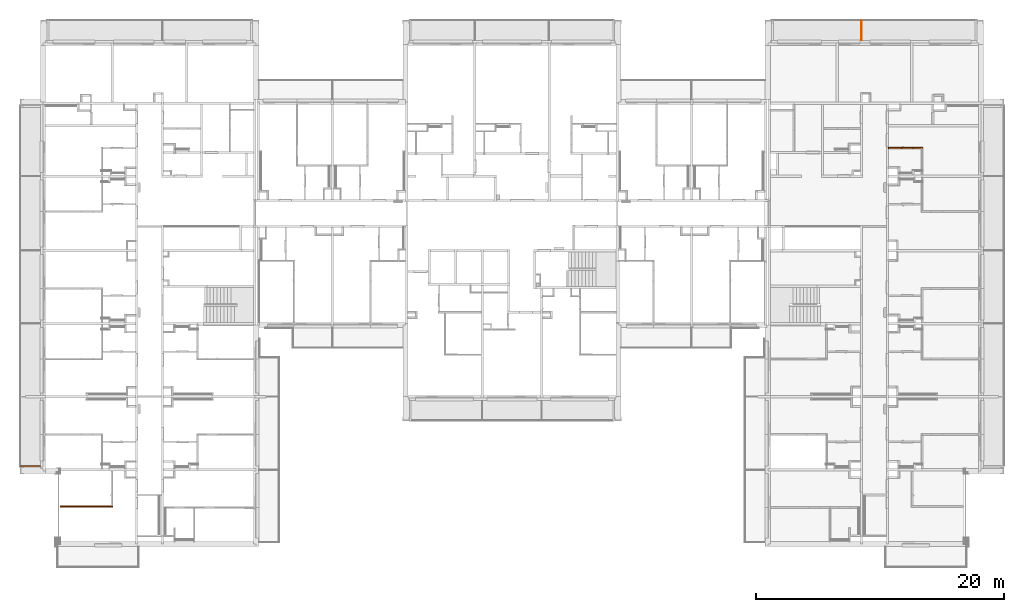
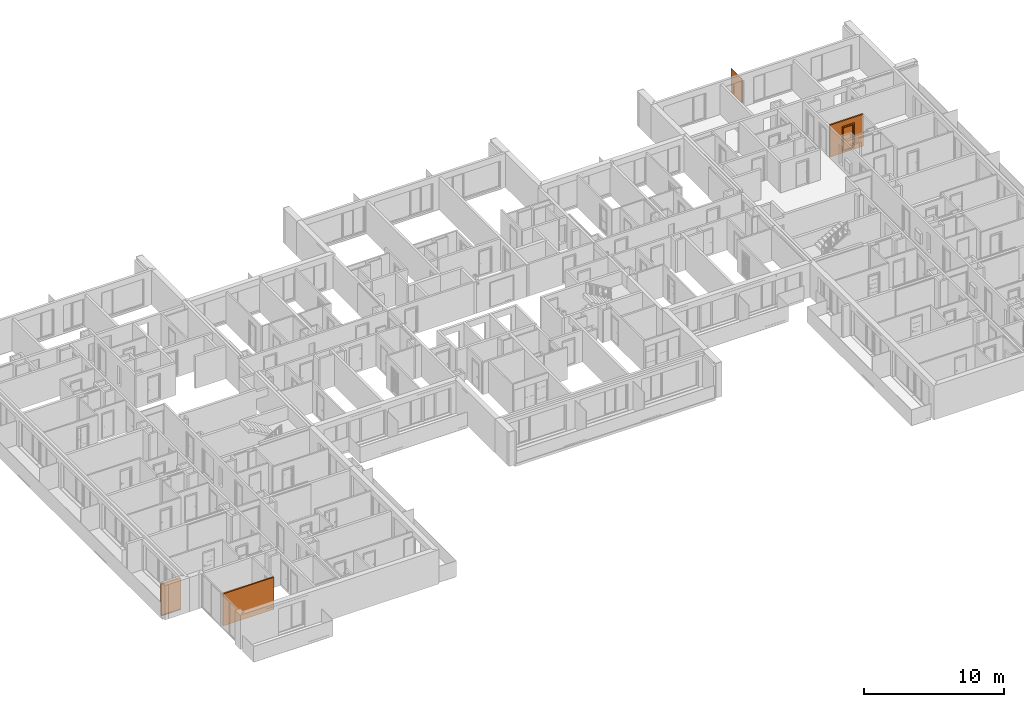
# One storey, part 34 of 64: 5 proxies, 1 opening.
"""IFC2X3 building model written with IfcOpenShell, lengths in millimetres."""

import ifcopenshell
import ifcopenshell.guid

model = None  # the IFC model being written
_history = None  # IfcOwnerHistory: only IFC2X3 demands one
_inside = {}  # id of a spatial element -> (the spatial element, [elements in it])
_under = {}  # id of a project, library or spatial element -> (it, [spatial elements below it])
_declared = {}  # id of a project -> (the project, [libraries it declares])
_typed = {}  # id of a type object -> (the type object, [elements of that type])
_made_of = {}  # id of a material, layer set ... -> (it, [elements and type objects made of it])


def new_model(schema):
    """Start an empty IFC model of exactly this schema.

    Asked for "IFC4X3", IfcOpenShell would pick the latest addendum, in which some entities
    have other attributes; the version numbers below select the first issue.
    IFC2X3 requires an IfcOwnerHistory on every rooted entity: one is made here for all.
    """
    global model, _history
    if schema == "IFC4X3":
        model = ifcopenshell.file(schema_version=(4, 3, 0, 0))
    else:
        model = ifcopenshell.file(schema=schema)
    _inside.clear()
    _under.clear()
    _declared.clear()
    _typed.clear()
    _made_of.clear()
    _history = None
    if model.schema == "IFC2X3":
        org = make("IfcOrganization", Name="unknown")
        user = make(
            "IfcPersonAndOrganization",
            ThePerson=make("IfcPerson", FamilyName="unknown"),
            TheOrganization=org,
        )
        app = make(
            "IfcApplication",
            ApplicationDeveloper=org,
            Version="unknown",
            ApplicationFullName="unknown",
            ApplicationIdentifier="unknown",
        )
        _history = make(
            "IfcOwnerHistory",
            OwningUser=user,
            OwningApplication=app,
            ChangeAction="ADDED",
            CreationDate=0,
        )
    return model


def make(cls, **values):
    """One entity of the class cls with the attributes given. An attribute that is None is left unset."""
    return model.create_entity(
        cls, **{name: value for name, value in values.items() if value is not None}
    )


def entity(cls, *values):
    """Any entity or typed value of the class cls, its attributes in the order of the schema. None: left unset."""
    e = model.create_entity(cls)
    for i, value in enumerate(values):
        if value is not None:
            e[i] = value
    return e


def rooted(cls, **values):
    """An entity with a GlobalId (a new one), such as an element, a storey or a relation."""
    return make(cls, GlobalId=ifcopenshell.guid.new(), OwnerHistory=_history, **values)


def si_unit(unit_type, name, prefix=None):
    """IfcSIUnit, for example si_unit("LENGTHUNIT", "METRE", prefix="MILLI")."""
    return make("IfcSIUnit", UnitType=unit_type, Prefix=prefix, Name=name)


def converted_unit(unit_type, name, factor, base, dimensions=None, offset=None):
    """IfcConversionBasedUnit, such as the inch: factor (a typed value) times the base unit."""
    return make(
        "IfcConversionBasedUnit"
        if offset is None
        else "IfcConversionBasedUnitWithOffset",
        ConversionOffset=offset,
        Dimensions=None
        if dimensions is None
        else entity("IfcDimensionalExponents", *dimensions),
        UnitType=unit_type,
        Name=name,
        ConversionFactor=make(
            "IfcMeasureWithUnit", ValueComponent=factor, UnitComponent=base
        ),
    )


def derived_unit(unit_type, elements):
    """IfcDerivedUnit: a product of units, each with its exponent."""
    return make(
        "IfcDerivedUnit",
        Elements=[
            make("IfcDerivedUnitElement", Unit=unit, Exponent=power)
            for unit, power in elements
        ],
        UnitType=unit_type,
    )


def money_unit(currency):
    """IfcMonetaryUnit."""
    return make("IfcMonetaryUnit", Currency=currency)


def assignment(units):
    """IfcUnitAssignment: the units of a project."""
    return None if units is None else make("IfcUnitAssignment", Units=units)


def point(xyz):
    """IfcCartesianPoint."""
    return None if xyz is None else make("IfcCartesianPoint", Coordinates=xyz)


def direction(xyz):
    """IfcDirection."""
    return None if xyz is None else make("IfcDirection", DirectionRatios=xyz)


def frame(location, z_axis=None, x_axis=None):
    """IfcAxis2Placement3D, a coordinate frame: its origin and axes. An axis left out is left unset."""
    return make(
        "IfcAxis2Placement3D",
        Location=point(location),
        Axis=direction(z_axis),
        RefDirection=direction(x_axis),
    )


def frame_2d(location, x_axis=None):
    """IfcAxis2Placement2D, a coordinate frame in the plane: its origin and x axis."""
    return make(
        "IfcAxis2Placement2D", Location=point(location), RefDirection=direction(x_axis)
    )


def origin_with_axes():
    """The frame at (0, 0, 0) with the z axis (0, 0, 1) and the x axis (1, 0, 0) written out."""
    return frame((0.0, 0.0, 0.0), z_axis=(0.0, 0.0, 1.0), x_axis=(1.0, 0.0, 0.0))


def origin_2d_with_axis():
    """The frame at (0, 0) in the plane with the x axis (1, 0) written out."""
    return frame_2d((0.0, 0.0), x_axis=(1.0, 0.0))


def place(relative_to, where):
    """IfcLocalPlacement: puts the frame where relative to a parent placement (None: the world)."""
    return make(
        "IfcLocalPlacement", PlacementRelTo=relative_to, RelativePlacement=where
    )


def context(
    kind, dimensions, precision=None, world=None, true_north=None, identifier=None
):
    """IfcGeometricRepresentationContext, for example the 3D "Model" context."""
    return make(
        "IfcGeometricRepresentationContext",
        ContextIdentifier=identifier,
        ContextType=kind,
        CoordinateSpaceDimension=dimensions,
        Precision=precision,
        WorldCoordinateSystem=world,
        TrueNorth=true_north,
    )


def subcontext(parent, identifier, kind, view, scale=None):
    """IfcGeometricRepresentationSubContext, for example "Body" below "Model"."""
    return make(
        "IfcGeometricRepresentationSubContext",
        ContextIdentifier=identifier,
        ContextType=kind,
        ParentContext=parent,
        TargetScale=scale,
        TargetView=view,
    )


def project(units=None, contexts=None):
    """IfcProject with its units and contexts."""
    return rooted(
        "IfcProject",
        Name="project",
        RepresentationContexts=contexts,
        UnitsInContext=assignment(units),
    )


def spatial(cls, under=None, at=None, **own):
    """A site, building, storey or space (cls), placed at a placement, below another one or the project."""
    s = rooted(cls, ObjectPlacement=at, **own)
    if under is not None:
        _under.setdefault(under.id(), (under, []))[1].append(s)
    return s


def polyline(points):
    """IfcPolyline through the points."""
    return make("IfcPolyline", Points=[point(p) for p in points])


def profile(cls, at=None, kind="AREA", **sizes):
    """A parametric profile (cls). Its sizes go by their IFC names, for example OverallWidth=200.0."""
    return make(cls, ProfileType=kind, Position=at, **sizes)


def rectangle(**sizes):
    """IfcRectangleProfileDef."""
    return profile("IfcRectangleProfileDef", **sizes)


def outline(outer, holes=None, kind="AREA"):
    """IfcArbitraryClosedProfileDef: a profile drawn as a closed curve; with holes, ...WithVoids."""
    if holes is None:
        return make("IfcArbitraryClosedProfileDef", ProfileType=kind, OuterCurve=outer)
    return make(
        "IfcArbitraryProfileDefWithVoids",
        ProfileType=kind,
        OuterCurve=outer,
        InnerCurves=holes,
    )


def extrude(swept, where, along, depth):
    """IfcExtrudedAreaSolid: the profile swept, set in the frame where, extruded along a direction by depth."""
    return make(
        "IfcExtrudedAreaSolid",
        SweptArea=swept,
        Position=where,
        ExtrudedDirection=direction(along),
        Depth=depth,
    )


def faces_of(points, faces, orient=None, outer=None):
    """IfcFace entities. A face is a list of loops; a loop is a list of indices into points, from 0.

    orient and outer hold one flag for each loop. By default every Orientation is true, the
    first loop of a face is its IfcFaceOuterBound and the others are IfcFaceBound.
    """
    made = []
    for i, loops in enumerate(faces):
        bounds = []
        for j, loop in enumerate(loops):
            is_outer = j == 0 if outer is None else outer[i][j]
            bounds.append(
                make(
                    "IfcFaceOuterBound" if is_outer else "IfcFaceBound",
                    Bound=make("IfcPolyLoop", Polygon=[points[k] for k in loop]),
                    Orientation=True if orient is None else orient[i][j],
                )
            )
        made.append(make("IfcFace", Bounds=bounds))
    return made


def open_shell(faces, orient=None, outer=None):
    """The faces of one IfcOpenShell. surface_model builds it on its shared points."""
    return ("IfcOpenShell", faces, orient, outer)


def faceted_brep(points, faces, orient=None, outer=None, voids=None):
    """IfcFacetedBrep: a solid bounded by flat faces; with voids (closed shells), ...WithVoids."""
    shared = [point(p) for p in points]
    hull = make("IfcClosedShell", CfsFaces=faces_of(shared, faces, orient, outer))
    if voids is None:
        return make("IfcFacetedBrep", Outer=hull)
    return make(
        "IfcFacetedBrepWithVoids",
        Outer=hull,
        Voids=[
            make(cls, CfsFaces=faces_of(shared, fs, o, b)) for cls, fs, o, b in voids
        ],
    )


def surface_model(cls, points, shells):
    """IfcFaceBasedSurfaceModel or IfcShellBasedSurfaceModel (cls): surfaces that need not close."""
    shared = [point(p) for p in points]
    made = [make(c, CfsFaces=faces_of(shared, fs, o, b)) for c, fs, o, b in shells]
    if cls == "IfcFaceBasedSurfaceModel":
        return make(cls, FbsmFaces=made)
    return make(cls, SbsmBoundary=made)


def shape(context_of_items, identifier, shape_type, items):
    """IfcShapeRepresentation: the items that make up one representation, for example the "Body"."""
    return make(
        "IfcShapeRepresentation",
        ContextOfItems=context_of_items,
        RepresentationIdentifier=identifier,
        RepresentationType=shape_type,
        Items=items,
    )


def source(mapping_origin, context_of_items, identifier, shape_type, items):
    """IfcRepresentationMap: a shape defined once, which mapped items show again and again."""
    return make(
        "IfcRepresentationMap",
        MappingOrigin=mapping_origin,
        MappedRepresentation=shape(context_of_items, identifier, shape_type, items),
    )


def transform(
    local_origin,
    x_axis=None,
    y_axis=None,
    z_axis=None,
    scale=None,
    scale2=None,
    scale3=None,
    uniform=True,
):
    """IfcCartesianTransformationOperator3D, or its non-uniform kind. x_axis, y_axis, z_axis: its Axis1, 2, 3."""
    if uniform:
        return make(
            "IfcCartesianTransformationOperator3D",
            Axis1=direction(x_axis),
            Axis2=direction(y_axis),
            LocalOrigin=point(local_origin),
            Scale=scale,
            Axis3=direction(z_axis),
        )
    return make(
        "IfcCartesianTransformationOperator3DnonUniform",
        Axis1=direction(x_axis),
        Axis2=direction(y_axis),
        LocalOrigin=point(local_origin),
        Scale=scale,
        Axis3=direction(z_axis),
        Scale2=scale2,
        Scale3=scale3,
    )


def mapped(mapping_source, mapping_target):
    """IfcMappedItem: shows the shape of a source again, moved by a transform."""
    return make(
        "IfcMappedItem", MappingSource=mapping_source, MappingTarget=mapping_target
    )


def material(Name=None, Category=None):
    """IfcMaterial."""
    return make("IfcMaterial", Name=Name, Category=Category)


def made_of(thing, what):
    """Note that an element or type object is made of a material, layer set ...; save() writes the relation."""
    if what is not None:
        _made_of.setdefault(what.id(), (what, []))[1].append(thing)
    return thing


def type_object(cls, material=None, **own):
    """A type object (cls), such as IfcWallType, which elements share."""
    return made_of(rooted(cls, **own), material)


def element(
    cls,
    number,
    at=None,
    inside=None,
    cuts=None,
    type_object=None,
    material=None,
    context=None,
    identifier="Body",
    shape_type=None,
    held_by="IfcProductDefinitionShape",
    body=None,
    shapes=None,
    **own,
):
    """One element of the class cls, such as IfcWall. Its Tag is "e" and its number.

    at: its placement. inside: the storey or other place that contains it. cuts: it is an
    opening in that element (IfcRelVoidsElement). A single representation is given by context,
    identifier, shape_type and body (its items); several are given by shapes. held_by: the class
    of the entity that holds the representations. save() writes the other relations.
    """
    e = rooted(cls, Tag="e%d" % number, ObjectPlacement=at, **own)
    if body is not None:
        shapes = [shape(context, identifier, shape_type, body)]
    if shapes is not None:
        e.Representation = make(held_by, Representations=shapes)
    if inside is not None:
        _inside.setdefault(inside.id(), (inside, []))[1].append(e)
    if cuts is not None:
        rooted(
            "IfcRelVoidsElement", RelatingBuildingElement=cuts, RelatedOpeningElement=e
        )
    if type_object is not None:
        _typed.setdefault(type_object.id(), (type_object, []))[1].append(e)
    return made_of(e, material)


def fill(opening, filler):
    """IfcRelFillsElement: the door or window that sits in an opening."""
    return rooted(
        "IfcRelFillsElement",
        RelatingOpeningElement=opening,
        RelatedBuildingElement=filler,
    )


def aggregate(whole, parts):
    """IfcRelAggregates: a whole, such as a stair, and the parts it consists of."""
    return rooted("IfcRelAggregates", RelatingObject=whole, RelatedObjects=parts)


def save(model, path):
    """Write the relations noted so far, then the file.

    IfcRelAggregates (storeys below a building ...), IfcRelContainedInSpatialStructure (elements
    in a storey), IfcRelDefinesByType, IfcRelAssociatesMaterial and IfcRelDeclares: one each for
    every whole, place, type object, material and project.
    """
    for whole, parts in _under.values():
        aggregate(whole, parts)
    for where, things in _inside.values():
        rooted(
            "IfcRelContainedInSpatialStructure",
            RelatedElements=things,
            RelatingStructure=where,
        )
    for kind, things in _typed.values():
        rooted("IfcRelDefinesByType", RelatedObjects=things, RelatingType=kind)
    for what, things in _made_of.values():
        rooted("IfcRelAssociatesMaterial", RelatedObjects=things, RelatingMaterial=what)
    for by, libraries in _declared.values():
        rooted("IfcRelDeclares", RelatingContext=by, RelatedDefinitions=libraries)
    model.write(path)


model = new_model("IFC2X3")

# Units and contexts
model_context = context("Model", 3, precision=0.01, world=origin_with_axes(), true_north=direction((0.34421633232, 0.938890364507)))
body_context = subcontext(model_context, "Body", "Model", "MODEL_VIEW")
ifc_project = project(units=[si_unit("LENGTHUNIT", "METRE", prefix="MILLI"), si_unit("AREAUNIT", "SQUARE_METRE"), si_unit("VOLUMEUNIT", "CUBIC_METRE"), converted_unit("PLANEANGLEUNIT", "DEGREE", entity("IfcPlaneAngleMeasure", 0.0174532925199), si_unit("PLANEANGLEUNIT", "RADIAN"), dimensions=[0, 0, 0, 0, 0, 0, 0]), si_unit("SOLIDANGLEUNIT", "STERADIAN"), money_unit("USD"), converted_unit("TIMEUNIT", "Year", entity("IfcTimeMeasure", 31556926.0), si_unit("TIMEUNIT", "SECOND"), dimensions=[0, 0, 1, 0, 0, 0, 0]), si_unit("MASSUNIT", "GRAM", prefix="KILO"), si_unit("THERMODYNAMICTEMPERATUREUNIT", "DEGREE_CELSIUS"), si_unit("LUMINOUSINTENSITYUNIT", "LUMEN"), si_unit("ENERGYUNIT", "JOULE", prefix="MEGA"), derived_unit("THERMALCONDUCTANCEUNIT", [(si_unit("POWERUNIT", "WATT"), 1), (si_unit("LENGTHUNIT", "METRE"), -1), (si_unit("THERMODYNAMICTEMPERATUREUNIT", "KELVIN"), -1)]), derived_unit("SPECIFICHEATCAPACITYUNIT", [(si_unit("ENERGYUNIT", "JOULE"), 1), (si_unit("MASSUNIT", "GRAM", prefix="KILO"), -1), (si_unit("THERMODYNAMICTEMPERATUREUNIT", "KELVIN"), -1)]), derived_unit("MASSDENSITYUNIT", [(si_unit("MASSUNIT", "GRAM", prefix="KILO"), 1), (si_unit("VOLUMEUNIT", "CUBIC_METRE"), -1)])], contexts=[model_context])

# Site, building, storey
site_placement = place(None, origin_with_axes())
site = spatial("IfcSite", under=ifc_project, at=site_placement, Name="USTRONIE MORSKIE", CompositionType="ELEMENT")
building_placement = place(site_placement, origin_with_axes())
building = spatial("IfcBuilding", under=site, at=building_placement, Name="Budynek", CompositionType="ELEMENT")
storey_placement = place(building_placement, frame((0.0, 0.0, 7000.0), z_axis=(0.0, 0.0, 1.0), x_axis=(1.0, 0.0, 0.0)))
storey = spatial("IfcBuildingStorey", under=building, at=storey_placement, Name="PIĘTRO 2", CompositionType="ELEMENT", Elevation=7000.0)

# Proxies, opening
ifc_material_1 = material(Name="Bloczki silikatowe")
building_element_proxy_type_1 = type_object("IfcBuildingElementProxyType", Name="Bloczki silikatowe 120", PredefinedType="NOTDEFINED")
proxy_1_placement = place(storey_placement, frame((420917.920919, 741061.20794, -180.0), z_axis=(0.0, 0.0, 1.0), x_axis=(-1.0, 0.0, 0.0)))
proxy_1 = element("IfcBuildingElementProxy", 1, at=proxy_1_placement, inside=storey, type_object=building_element_proxy_type_1, material=ifc_material_1, Name="SW-04", context=body_context, shape_type="Brep", body=[
    faceted_brep([(-60.0, 59.9999999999, 2820.0), (-60.0, 59.9999999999, 20.0), (-60.0, -59.9999999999, 20.0), (-60.0, -59.9999999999, 2820.0), (2720.0, 59.9999999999, 2820.0), (2720.0, 59.9999999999, 20.0), (2720.0, -59.9999999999, 20.0), (2720.0, -59.9999999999, 2820.0)], [[[0, 1, 2, 3]], [[4, 5, 1, 0]], [[5, 6, 2, 1]], [[3, 2, 6, 7]], [[0, 3, 7, 4]], [[7, 6, 5, 4]]]),
])
opening_placement = place(proxy_1_placement, frame((1200.0, 0.0, 180.0), z_axis=(0.0, 0.0, 1.0), x_axis=(1.0, 0.0, 0.0)))
opening = element("IfcOpeningElement", 2, at=opening_placement, cuts=proxy_1, Name="Dw.4", context=body_context, shape_type="SweptSolid", body=[
    extrude(rectangle(XDim=920.0, YDim=2070.0, at=origin_2d_with_axis()), frame((0.0, 120.0, 1035.0), z_axis=(0.0, -1.0, 0.0), x_axis=(-1.0, 0.0, 0.0)), (0.0, 0.0, 1.0), 360.0),
    extrude(rectangle(XDim=994.0, YDim=2177.0, at=origin_2d_with_axis()), frame((0.0, 60.0000000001, 1088.5), z_axis=(0.0, -1.0, 0.0), x_axis=(-1.0, 0.0, 0.0)), (0.0, 0.0, -1.0), 120.0),
    extrude(rectangle(XDim=994.0, YDim=2177.0, at=origin_2d_with_axis()), frame((0.0, -59.9999999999, 1088.5), z_axis=(0.0, 1.0, 0.0), x_axis=(-1.0, 0.0, 0.0)), (0.0, 0.0, -1.0), 120.0),
])
building_element_proxy_type_2 = type_object("IfcBuildingElementProxyType", Name="Drzwi 23", PredefinedType="NOTDEFINED")
shared_shape = source(origin_with_axes(), body_context, "Body", "SurfaceModel", [
    faceted_brep([(-460.0, -115.0, 0.0), (-435.0, -115.0, 0.0), (-435.0, -120.0, 0.0), (-460.0, -120.0, 0.0), (-460.0, -115.0, 2070.0), (-435.0, -115.0, 2045.0), (-435.0, -120.0, 2045.0), (-460.0, -120.0, 2070.0)], [[[0, 1, 2, 3]], [[0, 4, 5, 1]], [[1, 5, 6, 2]], [[3, 2, 6, 7]], [[4, 0, 3, 7]], [[5, 4, 7, 6]]]),
    faceted_brep([(460.0, -115.0, 2070.0), (435.0, -115.0, 2045.0), (435.0, -120.0, 2045.0), (460.0, -120.0, 2070.0), (460.0, -115.0, 0.0), (435.0, -115.0, 0.0), (435.0, -120.0, 0.0), (460.0, -120.0, 0.0)], [[[0, 1, 2, 3]], [[0, 4, 5, 1]], [[1, 5, 6, 2]], [[3, 2, 6, 7]], [[4, 0, 3, 7]], [[5, 4, 7, 6]]]),
    faceted_brep([(-435.0, -115.0, 2045.0), (435.0, -115.0, 2045.0), (435.0, -120.0, 2045.0), (-435.0, -120.0, 2045.0), (-460.0, -115.0, 2070.0), (460.0, -115.0, 2070.0), (460.0, -120.0, 2070.0), (-460.0, -120.0, 2070.0)], [[[0, 1, 2, 3]], [[0, 4, 5, 1]], [[1, 5, 6, 2]], [[3, 2, 6, 7]], [[4, 0, 3, 7]], [[5, 4, 7, 6]]]),
    faceted_brep([(-497.0, -139.0, 0.0), (-497.0, -120.0, 0.0), (-447.0, -120.0, 0.0), (-447.0, -139.0, 0.0), (-497.0, -139.0, 2177.0), (-497.0, -120.0, 2177.0), (-447.0, -120.0, 2057.0), (-447.0, -139.0, 2057.0)], [[[0, 1, 2, 3]], [[4, 5, 1, 0]], [[1, 5, 6, 2]], [[3, 2, 6, 7]], [[0, 3, 7, 4]], [[7, 6, 5, 4]]]),
    faceted_brep([(497.0, -139.0, 2177.0), (497.0, -120.0, 2177.0), (447.0, -120.0, 2057.0), (447.0, -139.0, 2057.0), (497.0, -139.0, 0.0), (497.0, -120.0, 0.0), (447.0, -120.0, 0.0), (447.0, -139.0, 0.0)], [[[0, 1, 2, 3]], [[4, 5, 1, 0]], [[1, 5, 6, 2]], [[3, 2, 6, 7]], [[0, 3, 7, 4]], [[7, 6, 5, 4]]]),
    faceted_brep([(-497.0, -139.0, 2177.0), (-497.0, -120.0, 2177.0), (-447.0, -120.0, 2057.0), (-447.0, -139.0, 2057.0), (497.0, -139.0, 2177.0), (497.0, -120.0, 2177.0), (447.0, -120.0, 2057.0), (447.0, -139.0, 2057.0)], [[[0, 1, 2, 3]], [[4, 5, 1, 0]], [[1, 5, 6, 2]], [[3, 2, 6, 7]], [[0, 3, 7, 4]], [[7, 6, 5, 4]]]),
    faceted_brep([(-497.0, 19.0, 0.0), (-447.0, 19.0, 0.0), (-447.0, 0.0, 0.0), (-497.0, 0.0, 0.0), (-497.0, 19.0, 2177.0), (-447.0, 19.0, 2057.0), (-447.0, 0.0, 2057.0), (-497.0, 0.0, 2177.0)], [[[0, 1, 2, 3]], [[0, 4, 5, 1]], [[1, 5, 6, 2]], [[3, 2, 6, 7]], [[4, 0, 3, 7]], [[5, 4, 7, 6]]]),
    faceted_brep([(497.0, 19.0, 2177.0), (447.0, 19.0, 2057.0), (447.0, 0.0, 2057.0), (497.0, 0.0, 2177.0), (497.0, 19.0, 0.0), (447.0, 19.0, 0.0), (447.0, 0.0, 0.0), (497.0, 0.0, 0.0)], [[[0, 1, 2, 3]], [[0, 4, 5, 1]], [[1, 5, 6, 2]], [[3, 2, 6, 7]], [[4, 0, 3, 7]], [[5, 4, 7, 6]]]),
    faceted_brep([(-497.0, 19.0, 2177.0), (-447.0, 19.0, 2057.0), (-447.0, 0.0, 2057.0), (-497.0, 0.0, 2177.0), (497.0, 19.0, 2177.0), (447.0, 19.0, 2057.0), (447.0, 0.0, 2057.0), (497.0, 0.0, 2177.0)], [[[0, 1, 2, 3]], [[0, 4, 5, 1]], [[1, 5, 6, 2]], [[3, 2, 6, 7]], [[4, 0, 3, 7]], [[5, 4, 7, 6]]]),
    faceted_brep([(-400.0, -40.0, 0.0), (-400.0, -40.0, 2000.0), (-400.0, -115.0, 2000.0), (-400.0, -115.0, 0.0), (-412.0, -40.0, 2000.0), (-412.0, -40.0, 0.0), (-412.0, 0.0, 2000.0), (-460.0, 0.0, 2000.0), (-460.0, -115.0, 2000.0), (-460.0, -115.0, 0.0), (-460.0, 0.0, 0.0), (-412.0, 0.0, 0.0)], [[[0, 1, 2, 3]], [[4, 1, 0, 5]], [[4, 6, 7, 8, 2, 1]], [[3, 2, 8, 9]], [[5, 0, 3, 9, 10, 11]], [[6, 4, 5, 11]], [[6, 11, 10, 7]], [[10, 9, 8, 7]]]),
    faceted_brep([(412.0, -40.0, 2000.0), (400.0, -40.0, 2000.0), (400.0, -115.0, 2000.0), (460.0, -115.0, 2000.0), (460.0, 0.0, 2000.0), (412.0, 0.0, 2000.0), (412.0, -40.0, 0.0), (400.0, -40.0, 0.0), (400.0, -115.0, 0.0), (460.0, -115.0, 0.0), (460.0, 0.0, 0.0), (412.0, 0.0, 0.0)], [[[0, 1, 2, 3, 4, 5]], [[1, 0, 6, 7]], [[1, 7, 8, 2]], [[3, 2, 8, 9]], [[4, 3, 9, 10]], [[11, 5, 4, 10]], [[0, 5, 11, 6]], [[6, 11, 10, 9, 8, 7]]]),
    faceted_brep([(-412.0, 0.0, 2012.0), (-412.0, 0.0, 2000.0), (-460.0, 0.0, 2000.0), (-460.0, 0.0, 2070.0), (460.0, 0.0, 2070.0), (460.0, 0.0, 2000.0), (412.0, 0.0, 2000.0), (412.0, 0.0, 2012.0), (-412.0, -40.0, 2012.0), (-412.0, -40.0, 2000.0), (-400.0, -40.0, 2000.0), (-400.0, -115.0, 2000.0), (-460.0, -115.0, 2000.0), (-460.0, -115.0, 2070.0), (460.0, -115.0, 2070.0), (460.0, -115.0, 2000.0), (412.0, -40.0, 2000.0), (400.0, -115.0, 2000.0), (400.0, -40.0, 2000.0), (412.0, -40.0, 2012.0)], [[[0, 1, 2, 3, 4, 5, 6, 7]], [[1, 0, 8, 9]], [[9, 10, 11, 12, 2, 1]], [[2, 12, 13, 3]], [[3, 13, 14, 4]], [[4, 14, 15, 5]], [[16, 6, 5, 15, 17, 18]], [[7, 6, 16, 19]], [[0, 7, 19, 8]], [[16, 18, 10, 9, 8, 19]], [[10, 18, 17, 11]], [[17, 15, 14, 13, 12, 11]]]),
    faceted_brep([(-390.5, -40.0, 1060.0), (-390.5, -43.0, 1060.0), (-333.5, -43.0, 1060.0), (-333.5, -40.0, 1060.0), (-390.5, -40.0, 870.0), (-390.5, -43.0, 870.0), (-333.5, -43.0, 870.0), (-333.5, -40.0, 870.0)], [[[0, 1, 2, 3]], [[4, 5, 1, 0]], [[1, 5, 6, 2]], [[3, 2, 6, 7]], [[0, 3, 7, 4]], [[7, 6, 5, 4]]]),
    faceted_brep([(-362.0, -104.0, 990.0), (-362.0, -111.0, 990.0), (-367.0, -111.0, 991.339745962), (-367.0, -104.0, 991.339745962), (-337.0, -104.0, 990.0), (-337.0, -111.0, 990.0), (-337.0, -111.0, 1010.0), (-362.0, -111.0, 1010.0), (-367.0, -111.0, 1008.66025404), (-370.660254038, -111.0, 1005.0), (-372.0, -111.0, 1000.0), (-370.660254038, -111.0, 995.0), (-370.660254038, -104.0, 995.0), (-372.0, -104.0, 1000.0), (-370.660254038, -104.0, 1005.0), (-367.0, -104.0, 1008.66025404), (-362.0, -104.0, 1010.0), (-337.0, -104.0, 1010.0)], [[[0, 1, 2, 3]], [[4, 5, 1, 0]], [[1, 5, 6, 7, 8, 9, 10, 11, 2]], [[3, 2, 11, 12]], [[0, 3, 12, 13, 14, 15, 16, 17, 4]], [[17, 6, 5, 4]], [[16, 7, 6, 17]], [[15, 8, 7, 16]], [[14, 9, 8, 15]], [[13, 10, 9, 14]], [[12, 11, 10, 13]]]),
    surface_model("IfcShellBasedSurfaceModel", [(-337.0, -104.0, 1010.0), (-323.596090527, -111.0, 1009.60730092), (-323.901717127, -104.0, 1009.60730092), (-337.0, -111.0, 1010.0), (-296.890283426, -108.663544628, 1008.82190275), (-323.901717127, -104.0, 990.392699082), (-337.0, -104.0, 990.0), (-337.0, -111.0, 990.0), (-323.596090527, -111.0, 990.392699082), (-296.890283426, -108.663544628, 991.178097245), (-297.804837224, -101.716818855, 1008.82190275), (-297.804837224, -101.716818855, 991.178097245), (-270.489735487, -104.008415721, 991.963495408), (-270.489735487, -104.008415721, 1008.03650459), (-272.006256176, -97.1678329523, 1008.03650459), (-272.006256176, -97.1678329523, 991.963495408), (-244.59537082, -97.0700416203, 992.748893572), (-244.59537082, -97.0700416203, 1007.25110643), (-246.702316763, -90.3876628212, 1007.25110643), (-246.702316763, -90.3876628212, 992.748893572), (-236.538795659, -94.1376880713, 993.0), (-236.538795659, -94.1376880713, 1007.0), (-238.829442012, -87.5221707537, 1007.0), (-238.829442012, -87.5221707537, 993.0)], [open_shell([[[0, 1, 2]], [[0, 3, 1]], [[2, 1, 4]], [[0, 2, 5, 6]], [[3, 7, 8, 1]], [[1, 8, 9, 4]], [[2, 4, 10]], [[2, 10, 11, 5]], [[5, 7, 6]], [[5, 8, 7]], [[11, 9, 8]], [[4, 9, 12, 13]], [[10, 4, 13]], [[10, 14, 15, 11]], [[11, 8, 5]], [[15, 9, 11]], [[15, 12, 9]], [[13, 12, 16, 17]], [[10, 13, 14]], [[14, 18, 19, 15]], [[19, 12, 15]], [[19, 16, 12]], [[17, 16, 20, 21]], [[14, 13, 17]], [[14, 17, 18]], [[18, 22, 23, 19]], [[23, 16, 19]], [[23, 20, 16]], [[22, 21, 20, 23]], [[18, 17, 21]], [[18, 21, 22]]])]),
    faceted_brep([(-351.607695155, -53.0, 994.0), (-350.741669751, -43.0, 993.5), (-349.0, -43.0, 1000.0), (-350.0, -53.0, 1000.0), (-356.0, -53.0, 989.607695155), (-355.5, -43.0, 988.741669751), (-362.0, -43.0, 987.0), (-368.5, -43.0, 988.741669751), (-373.258330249, -43.0, 993.5), (-375.0, -43.0, 1000.0), (-373.258330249, -43.0, 1006.5), (-368.5, -43.0, 1011.25833025), (-362.0, -43.0, 1013.0), (-355.5, -43.0, 1011.25833025), (-350.741669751, -43.0, 1006.5), (-351.607695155, -53.0, 1006.0), (-356.0, -53.0, 1010.39230485), (-362.0, -53.0, 1012.0), (-368.0, -53.0, 1010.39230485), (-372.392304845, -53.0, 1006.0), (-374.0, -53.0, 1000.0), (-372.392304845, -53.0, 994.0), (-368.0, -53.0, 989.607695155), (-362.0, -53.0, 988.0)], [[[0, 1, 2, 3]], [[4, 5, 1, 0]], [[2, 1, 5, 6, 7, 8, 9, 10, 11, 12, 13, 14]], [[3, 2, 14, 15]], [[3, 15, 16, 17, 18, 19, 20, 21, 22, 23, 4, 0]], [[23, 6, 5, 4]], [[22, 7, 6, 23]], [[21, 8, 7, 22]], [[20, 9, 8, 21]], [[19, 10, 9, 20]], [[18, 11, 10, 19]], [[17, 12, 11, 18]], [[16, 13, 12, 17]], [[15, 14, 13, 16]]]),
    faceted_brep([(-344.679491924, -47.0, 895.0), (-342.947441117, -43.0, 894.0), (-340.0, -43.0, 905.0), (-342.0, -47.0, 905.0), (-352.0, -47.0, 887.679491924), (-351.0, -43.0, 885.947441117), (-362.0, -43.0, 883.0), (-373.0, -43.0, 885.947441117), (-381.052558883, -43.0, 894.0), (-384.0, -43.0, 905.0), (-381.052558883, -43.0, 916.0), (-373.0, -43.0, 924.052558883), (-362.0, -43.0, 927.0), (-351.0, -43.0, 924.052558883), (-342.947441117, -43.0, 916.0), (-344.679491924, -47.0, 915.0), (-352.0, -47.0, 922.320508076), (-362.0, -47.0, 925.0), (-372.0, -47.0, 922.320508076), (-379.320508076, -47.0, 915.0), (-382.0, -47.0, 905.0), (-379.320508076, -47.0, 895.0), (-372.0, -47.0, 887.679491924), (-362.0, -47.0, 885.0)], [[[0, 1, 2, 3]], [[4, 5, 1, 0]], [[2, 1, 5, 6, 7, 8, 9, 10, 11, 12, 13, 14]], [[3, 2, 14, 15]], [[3, 15, 16, 17, 18, 19, 20, 21, 22, 23, 4, 0]], [[23, 6, 5, 4]], [[22, 7, 6, 23]], [[21, 8, 7, 22]], [[20, 9, 8, 21]], [[19, 10, 9, 20]], [[18, 11, 10, 19]], [[17, 12, 11, 18]], [[16, 13, 12, 17]], [[15, 14, 13, 16]]]),
    faceted_brep([(-357.050252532, -49.0, 909.050252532), (-356.343145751, -47.0, 908.343145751), (-354.0, -47.0, 914.0), (-355.0, -49.0, 914.0), (-362.0, -49.0, 907.0), (-362.0, -47.0, 906.0), (-367.656854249, -47.0, 908.343145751), (-370.0, -47.0, 914.0), (-367.656854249, -47.0, 919.656854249), (-362.0, -47.0, 922.0), (-356.343145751, -47.0, 919.656854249), (-357.050252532, -49.0, 918.949747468), (-362.0, -49.0, 921.0), (-366.949747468, -49.0, 918.949747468), (-369.0, -49.0, 914.0), (-366.949747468, -49.0, 909.050252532)], [[[0, 1, 2, 3]], [[4, 5, 1, 0]], [[2, 1, 5, 6, 7, 8, 9, 10]], [[3, 2, 10, 11]], [[3, 11, 12, 13, 14, 15, 4, 0]], [[15, 6, 5, 4]], [[14, 7, 6, 15]], [[13, 8, 7, 14]], [[12, 9, 8, 13]], [[11, 10, 9, 12]]]),
    faceted_brep([(-362.0, -53.0, 1010.0), (-362.0, -104.0, 1010.0), (-357.0, -104.0, 1008.66025404), (-357.0, -53.0, 1008.66025404), (-367.0, -53.0, 1008.66025404), (-367.0, -104.0, 1008.66025404), (-370.660254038, -104.0, 1005.0), (-372.0, -104.0, 1000.0), (-370.660254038, -104.0, 995.0), (-367.0, -104.0, 991.339745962), (-362.0, -104.0, 990.0), (-357.0, -104.0, 991.339745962), (-353.339745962, -104.0, 995.0), (-352.0, -104.0, 1000.0), (-353.339745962, -104.0, 1005.0), (-353.339745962, -53.0, 1005.0), (-352.0, -53.0, 1000.0), (-353.339745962, -53.0, 995.0), (-357.0, -53.0, 991.339745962), (-362.0, -53.0, 990.0), (-367.0, -53.0, 991.339745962), (-370.660254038, -53.0, 995.0), (-372.0, -53.0, 1000.0), (-370.660254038, -53.0, 1005.0)], [[[0, 1, 2, 3]], [[4, 5, 1, 0]], [[1, 5, 6, 7, 8, 9, 10, 11, 12, 13, 14, 2]], [[3, 2, 14, 15]], [[0, 3, 15, 16, 17, 18, 19, 20, 21, 22, 23, 4]], [[23, 6, 5, 4]], [[22, 7, 6, 23]], [[21, 8, 7, 22]], [[20, 9, 8, 21]], [[19, 10, 9, 20]], [[18, 11, 10, 19]], [[17, 12, 11, 18]], [[16, 13, 12, 17]], [[15, 14, 13, 16]]]),
    faceted_brep([(-390.5, 0.0, 1060.0), (-333.5, 0.0, 1060.0), (-333.5, 3.0, 1060.0), (-390.5, 3.0, 1060.0), (-390.5, 0.0, 870.0), (-333.5, 0.0, 870.0), (-333.5, 3.0, 870.0), (-390.5, 3.0, 870.0)], [[[0, 1, 2, 3]], [[0, 4, 5, 1]], [[1, 5, 6, 2]], [[3, 2, 6, 7]], [[4, 0, 3, 7]], [[5, 4, 7, 6]]]),
    faceted_brep([(-362.0, 64.0, 990.0), (-367.0, 64.0, 991.339745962), (-367.0, 71.0, 991.339745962), (-362.0, 71.0, 990.0), (-337.0, 64.0, 990.0), (-337.0, 64.0, 1010.0), (-362.0, 64.0, 1010.0), (-367.0, 64.0, 1008.66025404), (-370.660254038, 64.0, 1005.0), (-372.0, 64.0, 1000.0), (-370.660254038, 64.0, 995.0), (-370.660254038, 71.0, 995.0), (-372.0, 71.0, 1000.0), (-370.660254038, 71.0, 1005.0), (-367.0, 71.0, 1008.66025404), (-362.0, 71.0, 1010.0), (-337.0, 71.0, 1010.0), (-337.0, 71.0, 990.0)], [[[0, 1, 2, 3]], [[0, 4, 5, 6, 7, 8, 9, 10, 1]], [[1, 10, 11, 2]], [[3, 2, 11, 12, 13, 14, 15, 16, 17]], [[4, 0, 3, 17]], [[5, 4, 17, 16]], [[6, 5, 16, 15]], [[7, 6, 15, 14]], [[8, 7, 14, 13]], [[9, 8, 13, 12]], [[10, 9, 12, 11]]]),
    surface_model("IfcShellBasedSurfaceModel", [(-337.0, 64.0, 1010.0), (-323.901717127, 64.0, 1009.60730092), (-323.596090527, 71.0, 1009.60730092), (-337.0, 64.0, 990.0), (-323.901717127, 64.0, 990.392699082), (-296.890283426, 68.6635446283, 1008.82190275), (-337.0, 71.0, 1010.0), (-337.0, 71.0, 990.0), (-297.804837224, 61.716818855, 991.178097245), (-297.804837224, 61.716818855, 1008.82190275), (-296.890283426, 68.6635446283, 991.178097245), (-323.596090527, 71.0, 990.392699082), (-272.006256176, 57.1678329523, 991.963495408), (-272.006256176, 57.1678329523, 1008.03650459), (-270.489735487, 64.0084157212, 1008.03650459), (-270.489735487, 64.0084157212, 991.963495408), (-246.702316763, 50.3876628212, 992.748893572), (-246.702316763, 50.3876628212, 1007.25110643), (-244.59537082, 57.0700416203, 1007.25110643), (-244.59537082, 57.0700416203, 992.748893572), (-238.829442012, 47.5221707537, 993.0), (-238.829442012, 47.5221707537, 1007.0), (-236.538795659, 54.1376880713, 1007.0), (-236.538795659, 54.1376880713, 993.0)], [open_shell([[[0, 1, 2]], [[0, 3, 4, 1]], [[1, 5, 2]], [[0, 2, 6]], [[4, 3, 7]], [[1, 4, 8, 9]], [[1, 9, 5]], [[2, 5, 10, 11]], [[6, 2, 11, 7]], [[4, 7, 11]], [[8, 4, 11]], [[9, 8, 12, 13]], [[9, 14, 5]], [[5, 14, 15, 10]], [[8, 11, 10]], [[12, 8, 10]], [[13, 12, 16, 17]], [[9, 13, 14]], [[14, 18, 19, 15]], [[12, 10, 15]], [[16, 12, 15]], [[17, 16, 20, 21]], [[13, 17, 18]], [[13, 18, 14]], [[18, 22, 23, 19]], [[16, 15, 19]], [[20, 16, 19]], [[21, 20, 23, 22]], [[17, 21, 22]], [[17, 22, 18]], [[20, 19, 23]]])]),
    faceted_brep([(-351.607695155, 13.0, 994.0), (-350.0, 13.0, 1000.0), (-349.0, 3.0, 1000.0), (-350.741669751, 3.0, 993.5), (-356.0, 13.0, 989.607695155), (-362.0, 13.0, 988.0), (-368.0, 13.0, 989.607695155), (-372.392304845, 13.0, 994.0), (-374.0, 13.0, 1000.0), (-372.392304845, 13.0, 1006.0), (-368.0, 13.0, 1010.39230485), (-362.0, 13.0, 1012.0), (-356.0, 13.0, 1010.39230485), (-351.607695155, 13.0, 1006.0), (-350.741669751, 3.0, 1006.5), (-355.5, 3.0, 1011.25833025), (-362.0, 3.0, 1013.0), (-368.5, 3.0, 1011.25833025), (-373.258330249, 3.0, 1006.5), (-375.0, 3.0, 1000.0), (-373.258330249, 3.0, 993.5), (-368.5, 3.0, 988.741669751), (-362.0, 3.0, 987.0), (-355.5, 3.0, 988.741669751)], [[[0, 1, 2, 3]], [[1, 0, 4, 5, 6, 7, 8, 9, 10, 11, 12, 13]], [[1, 13, 14, 2]], [[2, 14, 15, 16, 17, 18, 19, 20, 21, 22, 23, 3]], [[4, 0, 3, 23]], [[5, 4, 23, 22]], [[6, 5, 22, 21]], [[7, 6, 21, 20]], [[8, 7, 20, 19]], [[9, 8, 19, 18]], [[10, 9, 18, 17]], [[11, 10, 17, 16]], [[12, 11, 16, 15]], [[13, 12, 15, 14]]]),
    faceted_brep([(-344.679491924, 7.0, 895.0), (-342.0, 7.0, 905.0), (-340.0, 3.0, 905.0), (-342.947441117, 3.0, 894.0), (-352.0, 7.0, 887.679491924), (-362.0, 7.0, 885.0), (-372.0, 7.0, 887.679491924), (-379.320508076, 7.0, 895.0), (-382.0, 7.0, 905.0), (-379.320508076, 7.0, 915.0), (-372.0, 7.0, 922.320508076), (-362.0, 7.0, 925.0), (-352.0, 7.0, 922.320508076), (-344.679491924, 7.0, 915.0), (-342.947441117, 3.0, 916.0), (-351.0, 3.0, 924.052558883), (-362.0, 3.0, 927.0), (-373.0, 3.0, 924.052558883), (-381.052558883, 3.0, 916.0), (-384.0, 3.0, 905.0), (-381.052558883, 3.0, 894.0), (-373.0, 3.0, 885.947441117), (-362.0, 3.0, 883.0), (-351.0, 3.0, 885.947441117)], [[[0, 1, 2, 3]], [[1, 0, 4, 5, 6, 7, 8, 9, 10, 11, 12, 13]], [[1, 13, 14, 2]], [[2, 14, 15, 16, 17, 18, 19, 20, 21, 22, 23, 3]], [[4, 0, 3, 23]], [[5, 4, 23, 22]], [[6, 5, 22, 21]], [[7, 6, 21, 20]], [[8, 7, 20, 19]], [[9, 8, 19, 18]], [[10, 9, 18, 17]], [[11, 10, 17, 16]], [[12, 11, 16, 15]], [[13, 12, 15, 14]]]),
    faceted_brep([(-357.050252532, 9.0, 909.050252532), (-355.0, 9.0, 914.0), (-354.0, 7.0, 914.0), (-356.343145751, 7.0, 908.343145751), (-362.0, 9.0, 907.0), (-366.949747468, 9.0, 909.050252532), (-369.0, 9.0, 914.0), (-366.949747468, 9.0, 918.949747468), (-362.0, 9.0, 921.0), (-357.050252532, 9.0, 918.949747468), (-356.343145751, 7.0, 919.656854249), (-362.0, 7.0, 922.0), (-367.656854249, 7.0, 919.656854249), (-370.0, 7.0, 914.0), (-367.656854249, 7.0, 908.343145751), (-362.0, 7.0, 906.0)], [[[0, 1, 2, 3]], [[1, 0, 4, 5, 6, 7, 8, 9]], [[1, 9, 10, 2]], [[2, 10, 11, 12, 13, 14, 15, 3]], [[4, 0, 3, 15]], [[5, 4, 15, 14]], [[6, 5, 14, 13]], [[7, 6, 13, 12]], [[8, 7, 12, 11]], [[9, 8, 11, 10]]]),
    faceted_brep([(-362.0, 13.0, 1010.0), (-357.0, 13.0, 1008.66025404), (-357.0, 64.0, 1008.66025404), (-362.0, 64.0, 1010.0), (-367.0, 13.0, 1008.66025404), (-370.660254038, 13.0, 1005.0), (-372.0, 13.0, 1000.0), (-370.660254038, 13.0, 995.0), (-367.0, 13.0, 991.339745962), (-362.0, 13.0, 990.0), (-357.0, 13.0, 991.339745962), (-353.339745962, 13.0, 995.0), (-352.0, 13.0, 1000.0), (-353.339745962, 13.0, 1005.0), (-353.339745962, 64.0, 1005.0), (-352.0, 64.0, 1000.0), (-353.339745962, 64.0, 995.0), (-357.0, 64.0, 991.339745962), (-362.0, 64.0, 990.0), (-367.0, 64.0, 991.339745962), (-370.660254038, 64.0, 995.0), (-372.0, 64.0, 1000.0), (-370.660254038, 64.0, 1005.0), (-367.0, 64.0, 1008.66025404)], [[[0, 1, 2, 3]], [[0, 4, 5, 6, 7, 8, 9, 10, 11, 12, 13, 1]], [[1, 13, 14, 2]], [[3, 2, 14, 15, 16, 17, 18, 19, 20, 21, 22, 23]], [[4, 0, 3, 23]], [[5, 4, 23, 22]], [[6, 5, 22, 21]], [[7, 6, 21, 20]], [[8, 7, 20, 19]], [[9, 8, 19, 18]], [[10, 9, 18, 17]], [[11, 10, 17, 16]], [[12, 11, 16, 15]], [[13, 12, 15, 14]]]),
    faceted_brep([(412.0, 0.0, 0.0), (412.0, -40.0, 0.0), (-412.0, -40.0, 0.0), (-412.0, 0.0, 0.0), (412.0, 0.0, 2012.0), (412.0, -40.0, 2012.0), (-412.0, -40.0, 2012.0), (-412.0, 0.0, 2012.0)], [[[0, 1, 2, 3]], [[4, 5, 1, 0]], [[1, 5, 6, 2]], [[3, 2, 6, 7]], [[0, 3, 7, 4]], [[7, 6, 5, 4]]]),
])
proxy_2_placement = place(opening_placement, frame((400.0, 0.0, 0.0), z_axis=(0.0, 0.0, 1.0), x_axis=(-1.0, 0.0, 0.0)))
proxy_2 = element("IfcBuildingElementProxy", 3, at=proxy_2_placement, inside=storey, type_object=building_element_proxy_type_2, Name="Dw.4", context=body_context, shape_type="MappedRepresentation", body=[
    mapped(shared_shape, transform((400.0, 59.9999999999, 0.0))),
])
fill(opening, proxy_2)

# Proxies
proxy_3_placement = place(storey_placement, frame((351367.920919, 712121.199036, -160.0), z_axis=(0.0, 0.0, 1.0), x_axis=(1.0, 0.0, 0.0)))
element("IfcBuildingElementProxy", 4, at=proxy_3_placement, inside=storey, type_object=building_element_proxy_type_1, material=ifc_material_1, Name="SW-04", context=body_context, shape_type="Brep", body=[
    faceted_brep([(4210.0, 59.9999999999, 0.0), (4210.0, -59.9999999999, 0.0), (0.0, -59.9999999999, 0.0), (0.0, 59.9999999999, 0.0), (4210.0, 59.9999999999, 2800.0), (4210.0, -59.9999999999, 2800.0), (0.0, -59.9999999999, 2800.0), (0.0, 59.9999999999, 2800.0)], [[[0, 1, 2, 3]], [[1, 0, 4, 5]], [[1, 5, 6, 2]], [[7, 3, 2, 6]], [[4, 0, 3, 7]], [[5, 4, 7, 6]]]),
])
ifc_material_2 = material(Name="Woda")
building_element_proxy_type_3 = type_object("IfcBuildingElementProxyType", Name="Woda 30", PredefinedType="NOTDEFINED")
proxy_4_placement = place(storey_placement, frame((416017.920941, 749771.199036, 20.0), z_axis=(0.0, 0.0, 1.0), x_axis=(0.0, 1.0, 0.0)))
element("IfcBuildingElementProxy", 5, at=proxy_4_placement, inside=storey, type_object=building_element_proxy_type_3, material=ifc_material_2, Name="Œciana-007", context=body_context, shape_type="SweptSolid", body=[
    extrude(outline(polyline([(0.0, -15.0), (1569.98576119, -15.0), (1569.98576119, 15.0), (0.0, 15.0), (0.0, -15.0)])), origin_with_axes(), (0.0, 0.0, 1.0), 2120.0),
])
ifc_material_3 = material(Name="Laminat")
building_element_proxy_type_4 = type_object("IfcBuildingElementProxyType", Name="Laminat 150", PredefinedType="NOTDEFINED")
proxy_5_placement = place(storey_placement, frame((349757.920919, 715386.199036, -160.0), z_axis=(0.0, 0.0, 1.0), x_axis=(-1.0, 0.0, 0.0)))
element("IfcBuildingElementProxy", 6, at=proxy_5_placement, inside=storey, type_object=building_element_proxy_type_4, material=ifc_material_3, Name="SW-03", context=body_context, shape_type="Brep", body=[
    faceted_brep([(1600.03040031, 75.0, 10.0000009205), (1600.03040031, 74.9999999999, 2789.99999183), (1600.03040031, -75.0, 2789.99999183), (1600.03040031, -75.0, 10.0000009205), (0.0, 75.0, 9.99999623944), (-0.000681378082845, 74.9999999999, 2789.99999183), (1547.49980813, 75.0, 84.9999951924), (1547.49980813, 75.0, 14.9999951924), (1572.49971536, 75.0, 14.9999951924), (1572.49971536, 75.0, 109.999995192), (4.99980812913, 75.0, 109.999995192), (4.99980812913, 75.0, 84.9999951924), (0.0, -75.0, 2789.99999183), (0.0, -75.0, 9.99999623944), (1572.49971536, -75.0, 109.999995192), (1572.49971536, -75.0, 14.9999951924), (1547.49980813, -75.0, 14.9999951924), (1547.49980813, -75.0, 84.9999951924), (4.99980812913, -75.0, 84.9999951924), (4.99980812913, -75.0, 109.999995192)], [[[0, 1, 2, 3]], [[1, 0, 4, 5], [6, 7, 8, 9, 10, 11]], [[12, 2, 1, 5]], [[12, 13, 3, 2], [14, 15, 16, 17, 18, 19]], [[13, 4, 0, 3]], [[12, 5, 4, 13]], [[16, 7, 6, 17]], [[15, 8, 7, 16]], [[9, 8, 15, 14]], [[19, 10, 9, 14]], [[18, 11, 10, 19]], [[17, 6, 11, 18]]]),
])

save(model, "model.ifc")
